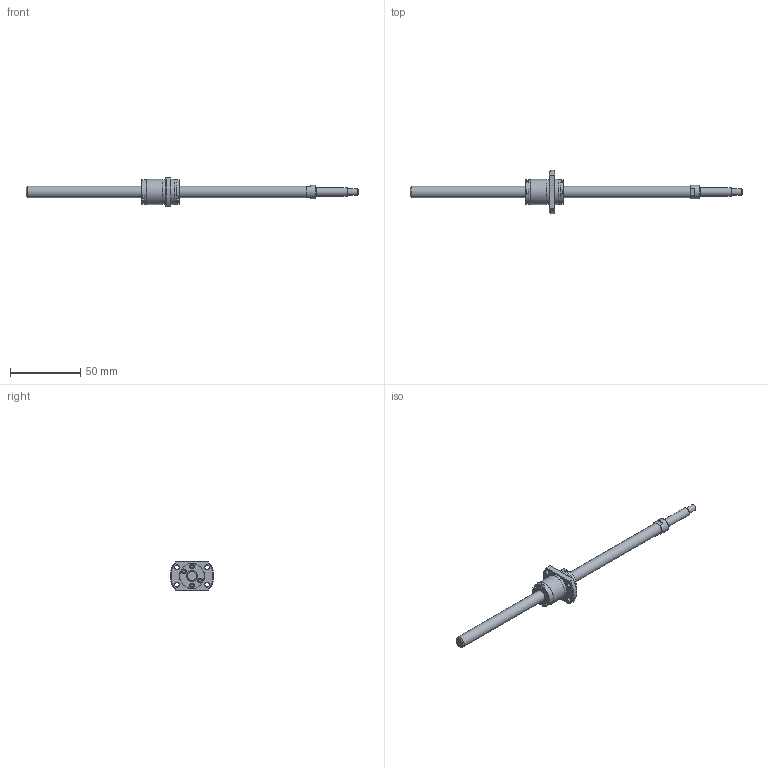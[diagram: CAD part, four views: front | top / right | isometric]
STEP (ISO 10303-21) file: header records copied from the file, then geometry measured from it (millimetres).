
FILE_DESCRIPTION(/* description */ ('STEP AP214'),/* implementation_level */ '2;1');
FILE_NAME(/* name */ 'SRT0812-196R237C7A0X(82.5Processing)',/* time_stamp */ '2026-08-04T20:05:19+02:00',/* author */ ('License CC BY-ND 4.0'),/* organization */ ('CADENAS'),/* preprocessor_version */ 'ST-DEVELOPER v20',/* originating_system */ 'PARTsolutions',/* authorisation */ ' ');
FILE_SCHEMA (('AUTOMOTIVE_DESIGN {1 0 10303 214 3 1 1}'));
Length unit declared in the file: millimetre
Products named in the file (3): SRT0812-196R237C7A0X(82.5Processing); SRT0812-196R270ACt7Processing49Shaft; SRT0812Nut
Assembly tree (2 placements, depth 2):
  SRT0812-196R237C7A0X(82.5Processing)
    SRT0812-196R270ACt7Processing49Shaft
    SRT0812Nut
Bounding box: 237 x 30.91 x 20 mm (x, y, z)
Volume: 17695.5 mm3; surface area: 9575 mm2
Topology: 2 solids, 2 shells, 151 faces, 360 edges, 236 vertices
Faces by surface type: plane 103, cylinder 36, cone 11, torus 1
Full cylindrical faces by diameter (mm): 3 x8, 3.4 x4, 4.5 x1, 6 x1, 8 x2, 9.5 x1, 17.5 x1, 17.7 x2, 18 x2
Entity records: 4287 total; most frequent: CARTESIAN_POINT 740, DIRECTION 722, ORIENTED_EDGE 656, EDGE_CURVE 328, AXIS2_PLACEMENT_3D 248, VERTEX_POINT 234, LINE 226, VECTOR 226
